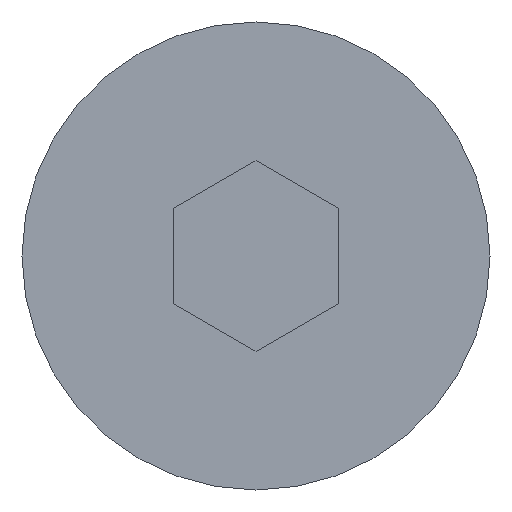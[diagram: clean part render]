
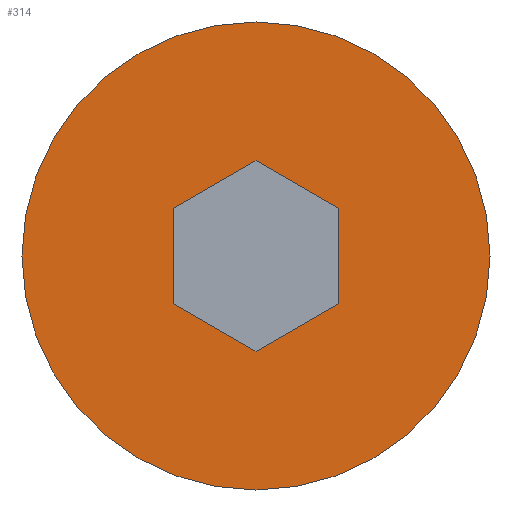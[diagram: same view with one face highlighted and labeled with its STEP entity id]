
A CAD part, front view. The second image highlights one B-rep face of the part: STEP entity #314.
In plain terms, the highlighted planar face has unit normal (0, -1, 0).
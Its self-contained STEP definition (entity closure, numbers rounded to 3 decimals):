
#61=CARTESIAN_POINT('',(0.,-3.5,0.));
#62=DIRECTION('',(0.,-1.,0.));
#63=DIRECTION('',(1.,0.,0.));
#64=AXIS2_PLACEMENT_3D('',#61,#62,#63);
#66=CARTESIAN_POINT('',(0.,-3.5,0.));
#67=DIRECTION('',(0.,-1.,0.));
#68=DIRECTION('',(-1.,0.,0.));
#69=AXIS2_PLACEMENT_3D('',#66,#67,#68);
#71=DIRECTION('',(0.,0.,1.));
#72=VECTOR('',#71,1.732);
#73=CARTESIAN_POINT('',(1.5,-3.5,-0.866));
#74=LINE('',#73,#72);
#75=DIRECTION('',(-0.866,0.,0.5));
#76=VECTOR('',#75,1.732);
#77=CARTESIAN_POINT('',(1.5,-3.5,0.866));
#78=LINE('',#77,#76);
#79=DIRECTION('',(-0.866,0.,-0.5));
#80=VECTOR('',#79,1.732);
#81=CARTESIAN_POINT('',(0.,-3.5,1.732));
#82=LINE('',#81,#80);
#83=DIRECTION('',(0.,0.,-1.));
#84=VECTOR('',#83,1.732);
#85=CARTESIAN_POINT('',(-1.5,-3.5,0.866));
#86=LINE('',#85,#84);
#87=DIRECTION('',(0.866,0.,-0.5));
#88=VECTOR('',#87,1.732);
#89=CARTESIAN_POINT('',(-1.5,-3.5,-0.866));
#90=LINE('',#89,#88);
#91=DIRECTION('',(0.866,0.,0.5));
#92=VECTOR('',#91,1.732);
#93=CARTESIAN_POINT('',(0.,-3.5,-1.732));
#94=LINE('',#93,#92);
#151=CARTESIAN_POINT('',(4.25,-3.5,0.));
#152=CARTESIAN_POINT('',(-4.25,-3.5,0.));
#153=VERTEX_POINT('',#151);
#154=VERTEX_POINT('',#152);
#171=CARTESIAN_POINT('',(1.5,-3.5,-0.866));
#172=CARTESIAN_POINT('',(1.5,-3.5,0.866));
#173=VERTEX_POINT('',#171);
#174=VERTEX_POINT('',#172);
#175=CARTESIAN_POINT('',(0.,-3.5,1.732));
#176=VERTEX_POINT('',#175);
#177=CARTESIAN_POINT('',(-1.5,-3.5,0.866));
#178=VERTEX_POINT('',#177);
#179=CARTESIAN_POINT('',(-1.5,-3.5,-0.866));
#180=VERTEX_POINT('',#179);
#181=CARTESIAN_POINT('',(0.,-3.5,-1.732));
#182=VERTEX_POINT('',#181);
#291=CARTESIAN_POINT('',(0.,-3.5,0.));
#292=DIRECTION('',(0.,-1.,0.));
#293=DIRECTION('',(1.,0.,0.));
#294=AXIS2_PLACEMENT_3D('',#291,#292,#293);
#295=PLANE('',#294);
#296=ORIENTED_EDGE('',*,*,#271,.F.);
#297=ORIENTED_EDGE('',*,*,#285,.F.);
#298=EDGE_LOOP('',(#296,#297));
#299=FACE_OUTER_BOUND('',#298,.F.);
#301=ORIENTED_EDGE('',*,*,#300,.T.);
#303=ORIENTED_EDGE('',*,*,#302,.T.);
#305=ORIENTED_EDGE('',*,*,#304,.T.);
#307=ORIENTED_EDGE('',*,*,#306,.T.);
#309=ORIENTED_EDGE('',*,*,#308,.T.);
#311=ORIENTED_EDGE('',*,*,#310,.T.);
#312=EDGE_LOOP('',(#301,#303,#305,#307,#309,#311));
#313=FACE_BOUND('',#312,.F.);
#314=ADVANCED_FACE('',(#299,#313),#295,.T.);
#65=CIRCLE('',#64,4.25);
#70=CIRCLE('',#69,4.25);
#271=EDGE_CURVE('',#153,#154,#65,.T.);
#285=EDGE_CURVE('',#154,#153,#70,.T.);
#300=EDGE_CURVE('',#173,#174,#74,.T.);
#302=EDGE_CURVE('',#174,#176,#78,.T.);
#304=EDGE_CURVE('',#176,#178,#82,.T.);
#306=EDGE_CURVE('',#178,#180,#86,.T.);
#308=EDGE_CURVE('',#180,#182,#90,.T.);
#310=EDGE_CURVE('',#182,#173,#94,.T.);
